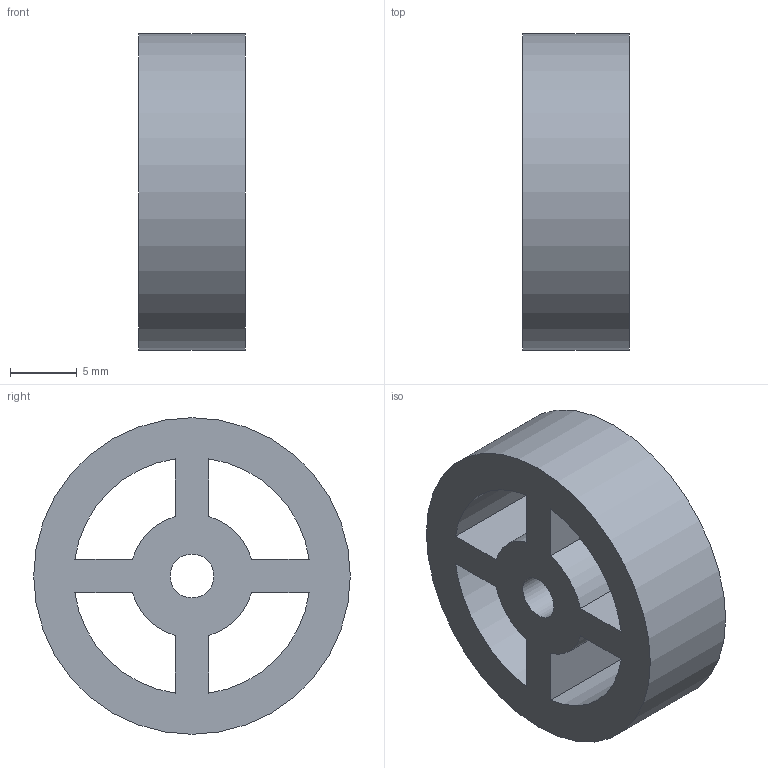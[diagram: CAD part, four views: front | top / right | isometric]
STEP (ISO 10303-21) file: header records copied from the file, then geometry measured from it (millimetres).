
FILE_DESCRIPTION(/* description */ ('STEP AP242 Edition 2','CAx-IF Rec.Pracs.---Representation and Presentation of Product Manufacturing Information (PMI)---4.0---2014-10-13','CAx-IF Rec.Pracs.---3D Tessellated Geometry---0.4---2014-09-14','2;1','CAx-IF Rec.Pracs.---User Defined Attributes---1.5---2016-08-15'),/* implementation_level */ '2;1');
FILE_NAME(/* name */ 'Part Studio 1 - Back Wheel',/* time_stamp */ '2026-04-09T20:19:24Z',/* author */ (''),/* organization */ (''),/* preprocessor_version */ 'ST-DEVELOPER v20',/* originating_system */ 'ONSHAPE BY PTC INC, 1.213',/* authorisation */ ' ');
FILE_SCHEMA (('AP242_MANAGED_MODEL_BASED_3D_ENGINEERING_MIM_LF { 1 0 10303 442 3 1 4 }'));
Length unit declared in the file: metre
Products named in the file (1): Back Wheel
Bounding box: 8 x 23.79 x 23.79 mm (x, y, z)
Volume: 2384.6 mm3; surface area: 2073.8 mm2
Topology: 1 solids, 1 shells, 20 faces, 54 edges, 36 vertices
Faces by surface type: plane 10, cylinder 10
Full cylindrical faces by diameter (mm): 3.3 x1, 23.792 x1
Entity records: 670 total; most frequent: DIRECTION 114, CARTESIAN_POINT 109, ORIENTED_EDGE 104, EDGE_CURVE 52, AXIS2_PLACEMENT_3D 41, VERTEX_POINT 36, LINE 32, VECTOR 32
